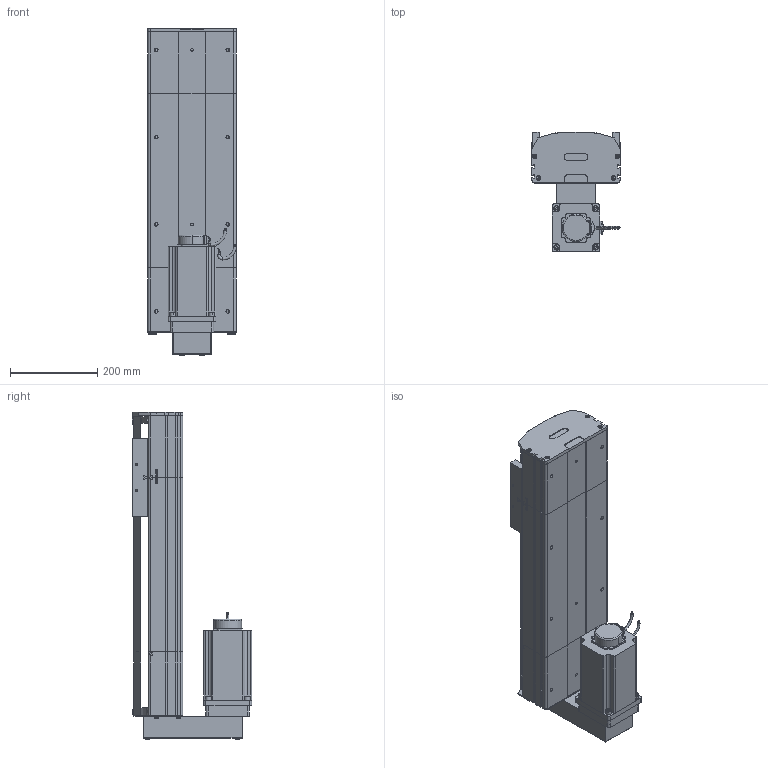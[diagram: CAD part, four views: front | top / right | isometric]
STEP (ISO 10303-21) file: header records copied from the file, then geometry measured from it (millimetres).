
FILE_DESCRIPTION (( 'STEP AP214' ), '1' );
FILE_NAME ('D20 TSH BM S400.STEP', '2010-06-30T08:30:03', ( 'Conseil Régional Haute-Normandie' ), ( 'Conseil Régional Haute-Normandie' ), 'SwSTEP 2.0', 'SolidWorks 2010', '' );
FILE_SCHEMA (( 'AUTOMOTIVE_DESIGN' ));
Length unit declared in the file: millimetre
Products named in the file (35): corps 110BLDC170A-630x; vis M5 L12_Default; couvercle head l D20_Default; plaque de  bout head BR D20_Default; corpl head MD D20_Default; Arbre+rail head D20; head BM D20_Default; couvercle D20 S400_Default; course D20 L400_Default; D20 TSH BM S400; Moteur motionking 110BLDC170A-640x; Plaque racord D20_Default; rail + arbre  D20 S400; avant 110BLDC170A-630x; corp D20 S400_Default; tail D20 S_Default; vis M5 L70_Default; tete d''axe bas D20; corpl tail D20_Default; Conecteur_Default; guide D20; couvercle tail D20_Default; Chariot D20; chariot D20S_Default; vis M5 L25_Default; renvoi  BM_Default; vis M8 L12_Default; clavette; Conecteur2_Default; codeur 110BLDC170A-630x; Arbre+rail tail D20; tete d''axe haut D20; vis M5 L8 90°_Default; 2 vis M5 L12_Default; plaque de  bout tail D20_Default
Assembly tree (59 placements, depth 4):
  D20 TSH BM S400
    course D20 L400_Default
      corp D20 S400_Default
      rail + arbre  D20 S400
      couvercle D20 S400_Default
    chariot D20S_Default
      vis M5 L12_Default  x4
      guide D20  x2
      Chariot D20
    tail D20 S_Default
      tete d''axe haut D20
      vis M5 L8 90°_Default  x2
      tete d''axe bas D20
      2 vis M5 L12_Default  x4
      corpl tail D20_Default
      vis M5 L25_Default  x2
      Arbre+rail tail D20
      plaque de  bout tail D20_Default
      couvercle tail D20_Default
    head BM D20_Default
      2 vis M5 L12_Default  x6
      vis M8 L12_Default  x4
      couvercle head l D20_Default
      corpl head MD D20_Default
      renvoi  BM_Default
      Plaque racord D20_Default
      vis M5 L70_Default  x4
      vis M5 L12_Default  x2
      plaque de  bout head BR D20_Default
      Moteur motionking 110BLDC170A-640x
        Conecteur2_Default
        corps 110BLDC170A-630x
        Conecteur_Default
        clavette
        codeur 110BLDC170A-630x
        avant 110BLDC170A-630x
      vis M5 L25_Default  x2
      Arbre+rail head D20
Bounding box: 206 x 273.7 x 751.7 mm (x, y, z)
Volume: 8984974.8 mm3; surface area: 1762846.4 mm2
Topology: 84 solids, 84 shells, 2290 faces, 5708 edges, 3683 vertices
Faces by surface type: plane 1378, cylinder 624, bspline 136, torus 77, cone 71, sphere 4
Entity records: 73529 total; most frequent: CARTESIAN_POINT 23851, ORIENTED_EDGE 8712, DIRECTION 8247, EDGE_CURVE 4356, VECTOR 2905, LINE 2905, VERTEX_POINT 2865, AXIS2_PLACEMENT_3D 2671
